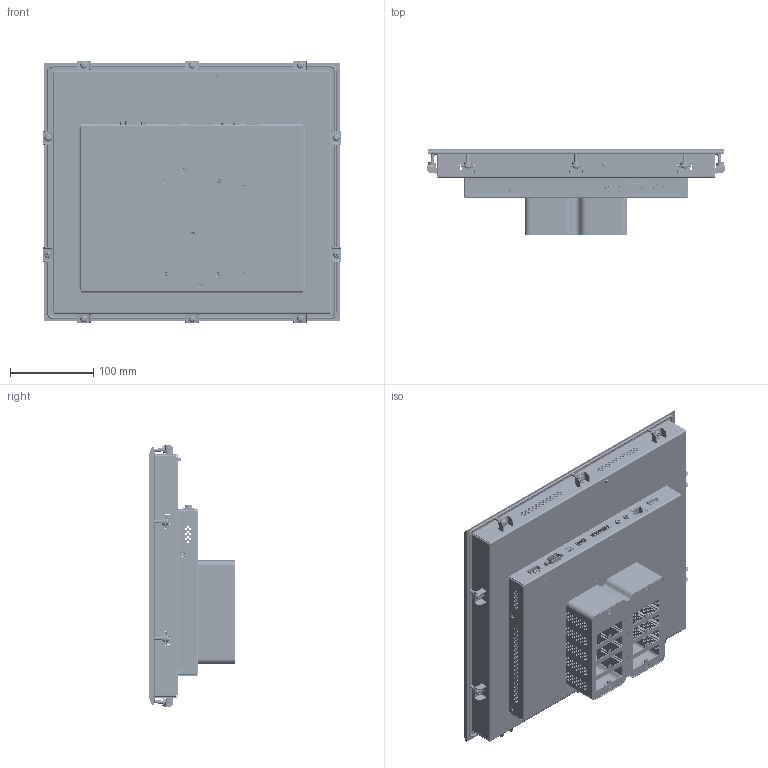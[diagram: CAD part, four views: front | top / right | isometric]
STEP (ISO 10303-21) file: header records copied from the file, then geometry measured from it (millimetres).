
FILE_DESCRIPTION (( 'STEP AP214' ), '1' );
FILE_NAME ('ﾏﾋﾊ15-01 ﾌ瑕褪.STEP', '2025-05-24T22:15:27', ( '' ), ( '' ), 'SwSTEP 2.0', 'SolidWorks 2021', '' );
FILE_SCHEMA (( 'AUTOMOTIVE_DESIGN' ));
Length unit declared in the file: millimetre
Products named in the file (1): ﾏﾋﾊ15-01 ﾌ瑕褪
Bounding box: 357.45 x 102.3 x 315.45 mm (x, y, z)
Surface area: 568320.1 mm2 (no closed solid volume)
Topology: 0 solids, 224 shells, 2766 faces, 15425 edges, 12669 vertices
Faces by surface type: cylinder 1359, plane 1236, cone 81, bspline 48, torus 42
Entity records: 190027 total; most frequent: CARTESIAN_POINT 44191, DIRECTION 22239, ORIENTED_EDGE 20983, EDGE_CURVE 15423, VERTEX_POINT 12669, LINE 8067, VECTOR 8067, AXIS2_PLACEMENT_3D 7086
